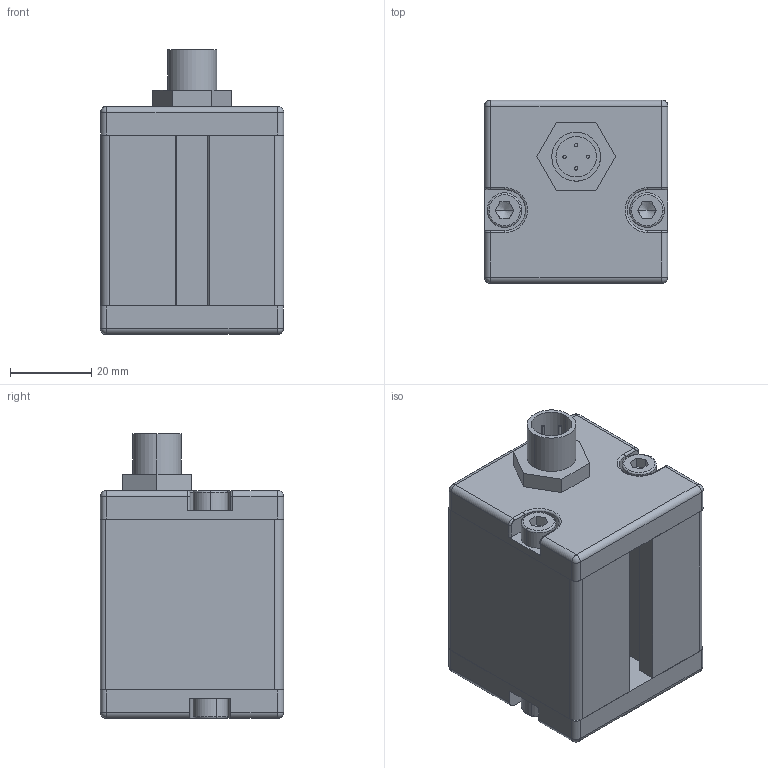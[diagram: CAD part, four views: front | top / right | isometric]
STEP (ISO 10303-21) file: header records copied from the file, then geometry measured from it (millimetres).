
FILE_DESCRIPTION (( 'STEP AP214' ), '1' );
FILE_NAME ('NBAR1.STEP', '2012-01-13T13:44:18', ( 'JRLEDS' ), ( '' ), 'SwSTEP 2.0', 'SolidWorks 2010', '' );
FILE_SCHEMA (( 'AUTOMOTIVE_DESIGN' ));
Length unit declared in the file: millimetre
Products named in the file (8): PROF-NBAR1; CIR1LED; Embout ALU; PROT-NBAR1; screw_din_912-m5x0_8-10-8_8_Default; Embout percé ALU; SW3DPS-FISCHER_DBP_103_Z053-130-DEFAULT; NBAR1
Assembly tree (10 placements, depth 2):
  NBAR1
    PROF-NBAR1
    Embout percé ALU
    Embout ALU
    screw_din_912-m5x0_8-10-8_8_Default  x4
    CIR1LED
    SW3DPS-FISCHER_DBP_103_Z053-130-DEFAULT
    PROT-NBAR1
Bounding box: 45.1 x 45 x 70 mm (x, y, z)
Volume: 55345.7 mm3; surface area: 40828.7 mm2
Topology: 11 solids, 11 shells, 268 faces, 653 edges, 406 vertices
Faces by surface type: plane 137, cylinder 93, cone 16, torus 14, sphere 8
Entity records: 7711 total; most frequent: DIRECTION 1133, CARTESIAN_POINT 1118, ORIENTED_EDGE 1034, EDGE_CURVE 517, AXIS2_PLACEMENT_3D 398, LINE 337, VECTOR 337, VERTEX_POINT 331
